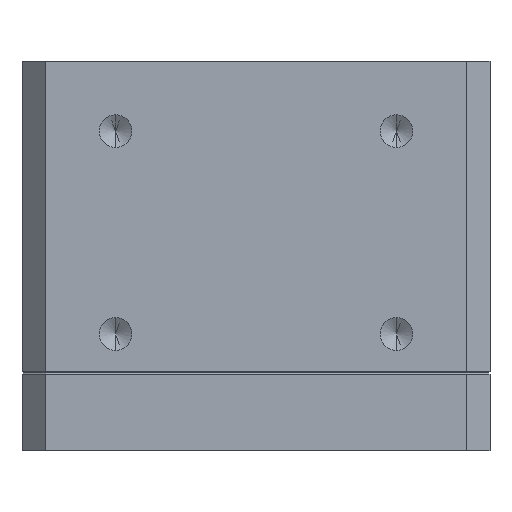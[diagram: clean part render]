
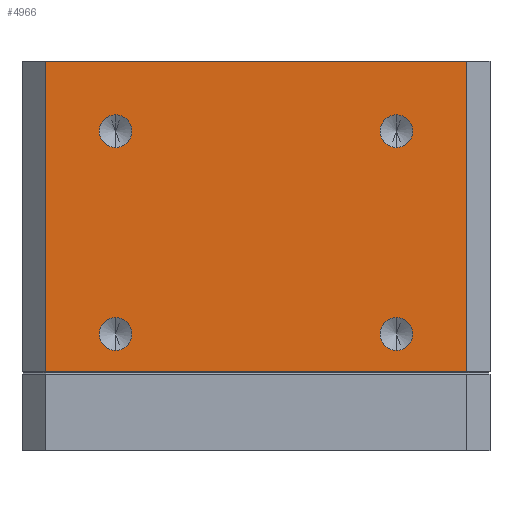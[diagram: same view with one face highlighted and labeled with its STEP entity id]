
A CAD part, left-side view. The second image highlights one B-rep face of the part: STEP entity #4966.
In plain terms, the highlighted planar face has unit normal (-1, 0, 0).
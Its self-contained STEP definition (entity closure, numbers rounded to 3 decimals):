
#42 = CARTESIAN_POINT ( 'NONE',  ( -72.5, 18., 7.1 ) ) ;
#126 = CARTESIAN_POINT ( 'NONE',  ( -72.5, -18., 31. ) ) ;
#173 = VERTEX_POINT ( 'NONE', #42 ) ;
#185 = FACE_BOUND ( 'NONE', #4442, .T. ) ;
#196 = DIRECTION ( 'NONE',  ( 0., 0., 1. ) ) ;
#227 = EDGE_CURVE ( 'NONE', #2252, #4671, #4655, .T. ) ;
#279 = DIRECTION ( 'NONE',  ( 0., 0., -1. ) ) ;
#301 = EDGE_CURVE ( 'NONE', #4050, #173, #3995, .T. ) ;
#327 = EDGE_CURVE ( 'NONE', #3547, #4925, #2667, .T. ) ;
#386 = DIRECTION ( 'NONE',  ( -1., 0., 0. ) ) ;
#419 = CIRCLE ( 'NONE', #3228, 2.1 ) ;
#491 = FACE_BOUND ( 'NONE', #1097, .T. ) ;
#503 = VERTEX_POINT ( 'NONE', #2541 ) ;
#571 = PLANE ( 'NONE',  #4892 ) ;
#582 = CARTESIAN_POINT ( 'NONE',  ( -72.5, 18., 5. ) ) ;
#598 = CARTESIAN_POINT ( 'NONE',  ( -72.5, -18., 31. ) ) ;
#645 = DIRECTION ( 'NONE',  ( -1., 0., 0. ) ) ;
#698 = VECTOR ( 'NONE', #1475, 1000. ) ;
#819 = ORIENTED_EDGE ( 'NONE', *, *, #227, .T. ) ;
#849 = VERTEX_POINT ( 'NONE', #3185 ) ;
#891 = DIRECTION ( 'NONE',  ( -1., 0., 0. ) ) ;
#966 = EDGE_LOOP ( 'NONE', ( #4921, #819, #2723, #1535 ) ) ;
#1097 = EDGE_LOOP ( 'NONE', ( #1712, #1396 ) ) ;
#1107 = CARTESIAN_POINT ( 'NONE',  ( -72.5, 18., 28.9 ) ) ;
#1158 = VERTEX_POINT ( 'NONE', #1804 ) ;
#1261 = VECTOR ( 'NONE', #4266, 1000. ) ;
#1307 = EDGE_CURVE ( 'NONE', #503, #4671, #2686, .T. ) ;
#1315 = AXIS2_PLACEMENT_3D ( 'NONE', #2653, #4318, #4268 ) ;
#1332 = DIRECTION ( 'NONE',  ( 0., 1., 0. ) ) ;
#1336 = ORIENTED_EDGE ( 'NONE', *, *, #1587, .F. ) ;
#1367 = DIRECTION ( 'NONE',  ( -1., 0., 0. ) ) ;
#1396 = ORIENTED_EDGE ( 'NONE', *, *, #301, .F. ) ;
#1475 = DIRECTION ( 'NONE',  ( 0., -1., 0. ) ) ;
#1508 = CIRCLE ( 'NONE', #2743, 2.1 ) ;
#1535 = ORIENTED_EDGE ( 'NONE', *, *, #4566, .F. ) ;
#1559 = CIRCLE ( 'NONE', #1315, 2.1 ) ;
#1587 = EDGE_CURVE ( 'NONE', #4925, #3547, #1687, .T. ) ;
#1630 = CARTESIAN_POINT ( 'NONE',  ( -72.5, 18., 31. ) ) ;
#1643 = CARTESIAN_POINT ( 'NONE',  ( -72.5, -18., 5. ) ) ;
#1653 = DIRECTION ( 'NONE',  ( 0., 0., 1. ) ) ;
#1654 = CARTESIAN_POINT ( 'NONE',  ( -72.5, 18., 2.9 ) ) ;
#1655 = ORIENTED_EDGE ( 'NONE', *, *, #4940, .F. ) ;
#1669 = DIRECTION ( 'NONE',  ( 0., 0., 1. ) ) ;
#1687 = CIRCLE ( 'NONE', #2023, 2.1 ) ;
#1712 = ORIENTED_EDGE ( 'NONE', *, *, #3816, .F. ) ;
#1759 = DIRECTION ( 'NONE',  ( 1., 0., 0. ) ) ;
#1797 = VERTEX_POINT ( 'NONE', #2385 ) ;
#1804 = CARTESIAN_POINT ( 'NONE',  ( -72.5, 27., 40. ) ) ;
#1853 = ORIENTED_EDGE ( 'NONE', *, *, #327, .F. ) ;
#1953 = CARTESIAN_POINT ( 'NONE',  ( -72.5, -18., 7.1 ) ) ;
#1965 = DIRECTION ( 'NONE',  ( 0., 0., 1. ) ) ;
#2023 = AXIS2_PLACEMENT_3D ( 'NONE', #2963, #645, #2944 ) ;
#2151 = CARTESIAN_POINT ( 'NONE',  ( -72.5, 27., 40. ) ) ;
#2252 = VERTEX_POINT ( 'NONE', #2758 ) ;
#2261 = CARTESIAN_POINT ( 'NONE',  ( -72.5, 27., 40. ) ) ;
#2343 = DIRECTION ( 'NONE',  ( -1., 0., 0. ) ) ;
#2355 = EDGE_CURVE ( 'NONE', #2458, #1797, #3121, .T. ) ;
#2358 = EDGE_LOOP ( 'NONE', ( #1336, #1853 ) ) ;
#2385 = CARTESIAN_POINT ( 'NONE',  ( -72.5, -18., 28.9 ) ) ;
#2458 = VERTEX_POINT ( 'NONE', #2832 ) ;
#2541 = CARTESIAN_POINT ( 'NONE',  ( -72.5, -27., 40. ) ) ;
#2600 = LINE ( 'NONE', #2261, #1261 ) ;
#2653 = CARTESIAN_POINT ( 'NONE',  ( -72.5, 18., 31. ) ) ;
#2667 = CIRCLE ( 'NONE', #4246, 2.1 ) ;
#2686 = LINE ( 'NONE', #5085, #3260 ) ;
#2723 = ORIENTED_EDGE ( 'NONE', *, *, #1307, .F. ) ;
#2743 = AXIS2_PLACEMENT_3D ( 'NONE', #1630, #891, #1653 ) ;
#2758 = CARTESIAN_POINT ( 'NONE',  ( -72.5, 27., 0.2 ) ) ;
#2765 = CARTESIAN_POINT ( 'NONE',  ( -72.5, -27., 0.2 ) ) ;
#2832 = CARTESIAN_POINT ( 'NONE',  ( -72.5, -18., 33.1 ) ) ;
#2944 = DIRECTION ( 'NONE',  ( 0., 0., 1. ) ) ;
#2963 = CARTESIAN_POINT ( 'NONE',  ( -72.5, -18., 5. ) ) ;
#3038 = CARTESIAN_POINT ( 'NONE',  ( -72.5, -18., 2.9 ) ) ;
#3113 = EDGE_CURVE ( 'NONE', #849, #3675, #1559, .T. ) ;
#3121 = CIRCLE ( 'NONE', #3201, 2.1 ) ;
#3171 = DIRECTION ( 'NONE',  ( 0., 0., -1. ) ) ;
#3185 = CARTESIAN_POINT ( 'NONE',  ( -72.5, 18., 33.1 ) ) ;
#3201 = AXIS2_PLACEMENT_3D ( 'NONE', #598, #3785, #3399 ) ;
#3228 = AXIS2_PLACEMENT_3D ( 'NONE', #126, #4541, #1669 ) ;
#3260 = VECTOR ( 'NONE', #279, 1000. ) ;
#3271 = EDGE_CURVE ( 'NONE', #1158, #2252, #3543, .T. ) ;
#3296 = EDGE_LOOP ( 'NONE', ( #3457, #4525 ) ) ;
#3312 = AXIS2_PLACEMENT_3D ( 'NONE', #582, #1367, #196 ) ;
#3327 = FACE_BOUND ( 'NONE', #3296, .T. ) ;
#3399 = DIRECTION ( 'NONE',  ( 0., 0., 1. ) ) ;
#3421 = CARTESIAN_POINT ( 'NONE',  ( -72.5, -27., 0.2 ) ) ;
#3457 = ORIENTED_EDGE ( 'NONE', *, *, #2355, .F. ) ;
#3543 = LINE ( 'NONE', #4699, #5024 ) ;
#3547 = VERTEX_POINT ( 'NONE', #3038 ) ;
#3626 = CARTESIAN_POINT ( 'NONE',  ( -72.5, 18., 5. ) ) ;
#3675 = VERTEX_POINT ( 'NONE', #1107 ) ;
#3687 = FACE_OUTER_BOUND ( 'NONE', #966, .T. ) ;
#3735 = ORIENTED_EDGE ( 'NONE', *, *, #3113, .F. ) ;
#3785 = DIRECTION ( 'NONE',  ( -1., 0., 0. ) ) ;
#3816 = EDGE_CURVE ( 'NONE', #173, #4050, #5034, .T. ) ;
#3876 = EDGE_CURVE ( 'NONE', #1797, #2458, #419, .T. ) ;
#3937 = DIRECTION ( 'NONE',  ( 0., 0., 1. ) ) ;
#3995 = CIRCLE ( 'NONE', #4650, 2.1 ) ;
#4050 = VERTEX_POINT ( 'NONE', #1654 ) ;
#4246 = AXIS2_PLACEMENT_3D ( 'NONE', #1643, #386, #1965 ) ;
#4266 = DIRECTION ( 'NONE',  ( 0., -1., 0. ) ) ;
#4268 = DIRECTION ( 'NONE',  ( 0., 0., 1. ) ) ;
#4318 = DIRECTION ( 'NONE',  ( -1., 0., 0. ) ) ;
#4442 = EDGE_LOOP ( 'NONE', ( #3735, #1655 ) ) ;
#4525 = ORIENTED_EDGE ( 'NONE', *, *, #3876, .F. ) ;
#4541 = DIRECTION ( 'NONE',  ( -1., 0., 0. ) ) ;
#4566 = EDGE_CURVE ( 'NONE', #1158, #503, #2600, .T. ) ;
#4650 = AXIS2_PLACEMENT_3D ( 'NONE', #3626, #2343, #3937 ) ;
#4655 = LINE ( 'NONE', #3421, #698 ) ;
#4671 = VERTEX_POINT ( 'NONE', #2765 ) ;
#4699 = CARTESIAN_POINT ( 'NONE',  ( -72.5, 27., 40. ) ) ;
#4892 = AXIS2_PLACEMENT_3D ( 'NONE', #2151, #1759, #1332 ) ;
#4921 = ORIENTED_EDGE ( 'NONE', *, *, #3271, .T. ) ;
#4924 = FACE_BOUND ( 'NONE', #2358, .T. ) ;
#4925 = VERTEX_POINT ( 'NONE', #1953 ) ;
#4940 = EDGE_CURVE ( 'NONE', #3675, #849, #1508, .T. ) ;
#4966 = ADVANCED_FACE ( 'NONE', ( #491, #185, #4924, #3327, #3687 ), #571, .F. ) ;
#5024 = VECTOR ( 'NONE', #3171, 1000. ) ;
#5034 = CIRCLE ( 'NONE', #3312, 2.1 ) ;
#5085 = CARTESIAN_POINT ( 'NONE',  ( -72.5, -27., 40. ) ) ;
